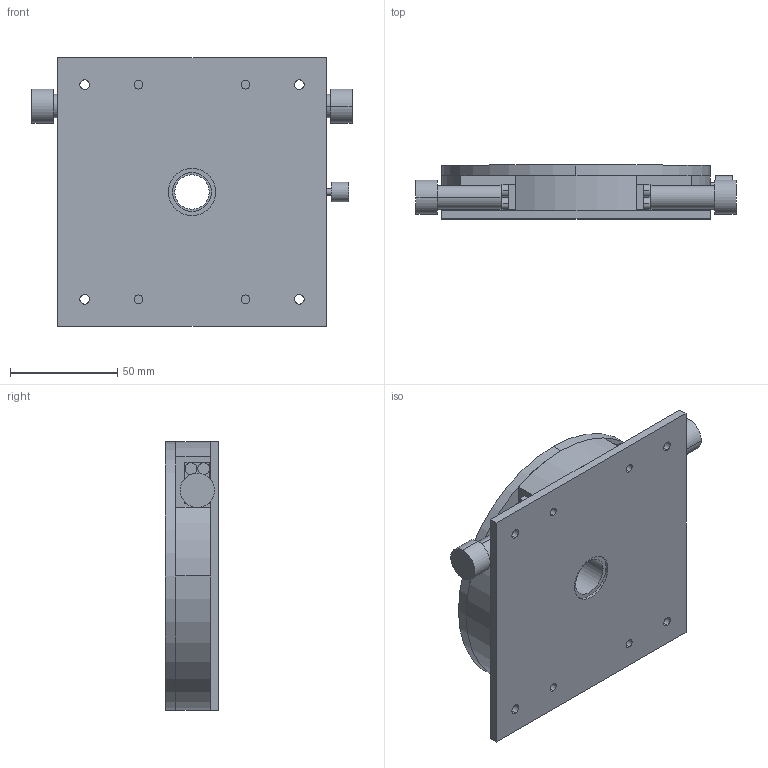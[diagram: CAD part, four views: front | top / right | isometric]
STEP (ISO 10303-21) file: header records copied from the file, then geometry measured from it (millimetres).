
FILE_DESCRIPTION (( 'STEP AP203' ), '1' );
FILE_NAME ('RS-147-2.STEP', '2008-01-30T06:43:52', ( '' ), ( '' ), 'SwSTEP 2.0', 'SolidWorks 2007', '' );
FILE_SCHEMA (( 'CONFIG_CONTROL_DESIGN' ));
Length unit declared in the file: millimetre
Products named in the file (3): RS-147-2-2_蹬怮椔; RS-147-2; RS-147-2-1_蹬怮椔
Assembly tree (2 placements, depth 2):
  RS-147-2
    RS-147-2-2_蹬怮椔
    RS-147-2-1_蹬怮椔
Bounding box: 149.2 x 25 x 125 mm (x, y, z)
Volume: 311696.3 mm3; surface area: 76590.6 mm2
Topology: 2 solids, 4 shells, 171 faces, 413 edges, 272 vertices
Faces by surface type: cylinder 117, plane 54
Entity records: 5736 total; most frequent: CARTESIAN_POINT 1089, DIRECTION 989, ORIENTED_EDGE 826, EDGE_CURVE 413, AXIS2_PLACEMENT_3D 408, VERTEX_POINT 272, EDGE_LOOP 255, CIRCLE 232
